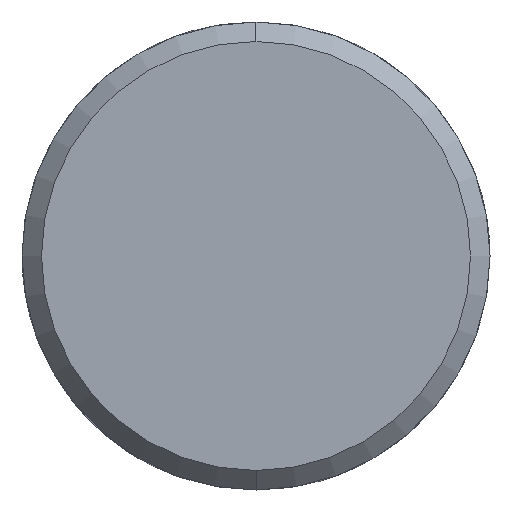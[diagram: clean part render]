
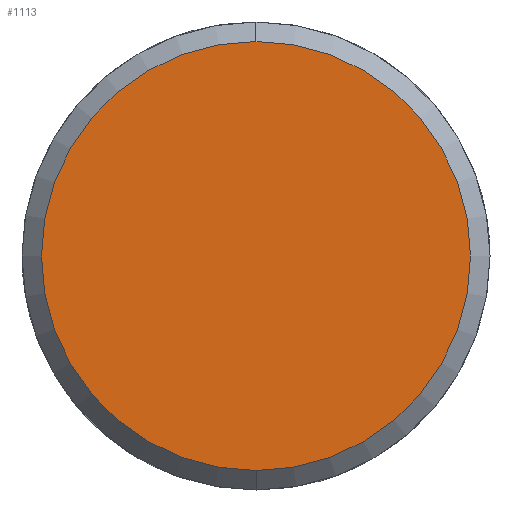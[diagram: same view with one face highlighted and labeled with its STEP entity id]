
A CAD part, left-side view. The second image highlights one B-rep face of the part: STEP entity #1113.
In plain terms, the highlighted planar face has unit normal (-1, 0, 0).
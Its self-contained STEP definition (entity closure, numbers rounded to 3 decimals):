
#1045=CARTESIAN_POINT('Vertex',(-5.,0.,-11.)) ;
#1048=CARTESIAN_POINT('Axis2P3D Location',(-5.,0.,0.)) ;
#1052=CARTESIAN_POINT('Vertex',(-5.,11.,0.)) ;
#1055=CARTESIAN_POINT('Axis2P3D Location',(-5.,0.,0.)) ;
#1059=CARTESIAN_POINT('Vertex',(-5.,0.,11.)) ;
#1081=CARTESIAN_POINT('Axis2P3D Location',(-5.,0.,0.)) ;
#1085=CARTESIAN_POINT('Vertex',(-5.,-11.,0.)) ;
#1088=CARTESIAN_POINT('Axis2P3D Location',(-5.,0.,0.)) ;
#1102=CARTESIAN_POINT('Axis2P3D Location',(-5.,0.,0.)) ;
#1049=DIRECTION('Axis2P3D Direction',(1.,0.,-0.)) ;
#1056=DIRECTION('Axis2P3D Direction',(1.,0.,-0.)) ;
#1082=DIRECTION('Axis2P3D Direction',(1.,0.,-0.)) ;
#1089=DIRECTION('Axis2P3D Direction',(1.,0.,-0.)) ;
#1103=DIRECTION('Axis2P3D Direction',(1.,0.,-0.)) ;
#1104=DIRECTION('Axis2P3D XDirection',(-0.,0.,-1.)) ;
#1050=AXIS2_PLACEMENT_3D('Circle Axis2P3D',#1048,#1049,$) ;
#1057=AXIS2_PLACEMENT_3D('Circle Axis2P3D',#1055,#1056,$) ;
#1083=AXIS2_PLACEMENT_3D('Circle Axis2P3D',#1081,#1082,$) ;
#1090=AXIS2_PLACEMENT_3D('Circle Axis2P3D',#1088,#1089,$) ;
#1105=AXIS2_PLACEMENT_3D('Plane Axis2P3D',#1102,#1103,#1104) ;
#1108=ORIENTED_EDGE('',*,*,#1054,.F.) ;
#1109=ORIENTED_EDGE('',*,*,#1092,.F.) ;
#1110=ORIENTED_EDGE('',*,*,#1087,.F.) ;
#1111=ORIENTED_EDGE('',*,*,#1061,.F.) ;
#1113=ADVANCED_FACE('351-14X46X90',(#1112),#1106,.F.) ;
#1051=CIRCLE('generated circle',#1050,11.) ;
#1058=CIRCLE('generated circle',#1057,11.) ;
#1084=CIRCLE('generated circle',#1083,11.) ;
#1091=CIRCLE('generated circle',#1090,11.) ;
#1054=EDGE_CURVE('',#1046,#1053,#1051,.T.) ;
#1061=EDGE_CURVE('',#1053,#1060,#1058,.T.) ;
#1087=EDGE_CURVE('',#1060,#1086,#1084,.T.) ;
#1092=EDGE_CURVE('',#1086,#1046,#1091,.T.) ;
#1107=EDGE_LOOP('',(#1108,#1109,#1110,#1111)) ;
#1112=FACE_OUTER_BOUND('',#1107,.T.) ;
#1106=PLANE('Plane',#1105) ;
#1046=VERTEX_POINT('',#1045) ;
#1053=VERTEX_POINT('',#1052) ;
#1060=VERTEX_POINT('',#1059) ;
#1086=VERTEX_POINT('',#1085) ;
